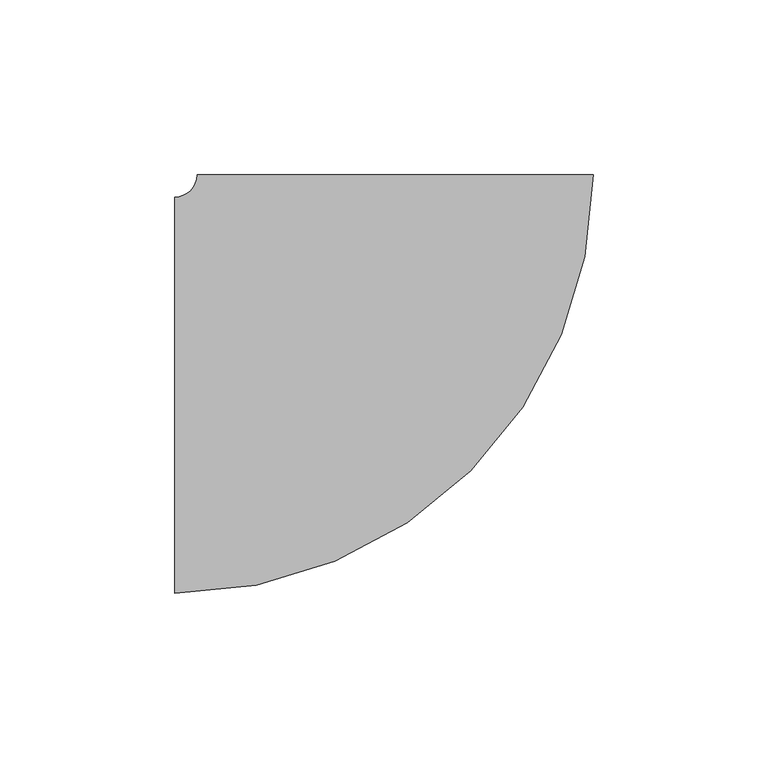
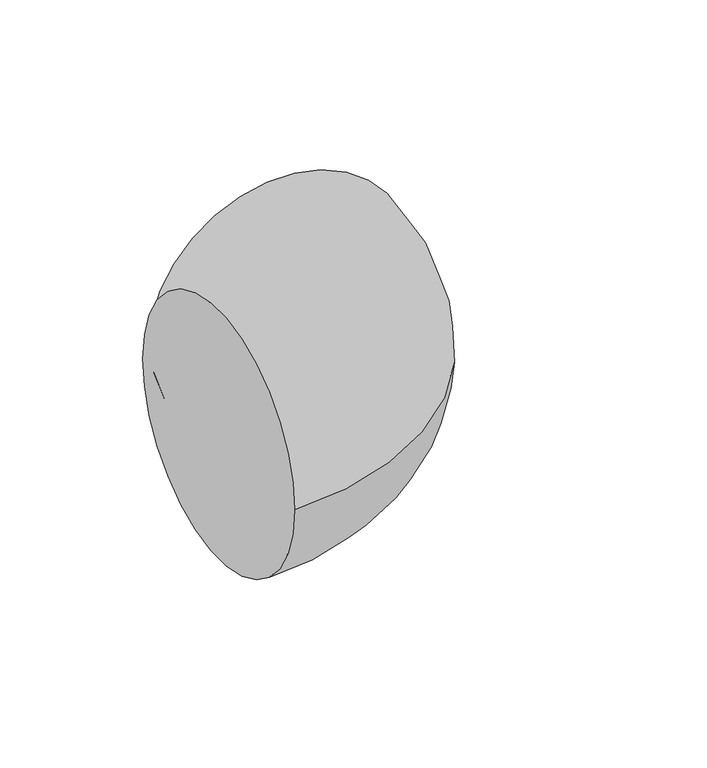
"""IFC4 building model written with IfcOpenShell, lengths in millimetres: pipe fitting geometry, M_Codo - Genérico : Estándar."""

from ifc_helpers import new_model, si_unit, point, frame, origin, place, context, project, spatial, circle_curve, ellipse_curve, trimmed, source, transform, mapped, element, save
from ifc_brep_helpers import plane_surface, revolved_surface, advanced_brep


def pipe_fitting_18296cc9(model_context):
    return source(origin(), model_context, "Body", "AdvancedBrep", [
        advanced_brep(
        [(-62.9350608, -56.5875, 0.0), (-62.9350608, 56.5875, 0.0), (56.5899391, 62.9328676, 0.0), (-56.5850608, 62.9372539, 0.0)],
        [
            (0, 1, circle_curve(frame((-62.9350608, 0.0, 0.0), z_axis=(-1.0, 0.0, 0.0), x_axis=(0.0, 1.0, 0.0)), 56.5875)),
            (1, 0, circle_curve(frame((-62.9350608, 0.0, 0.0), z_axis=(-1.0, 0.0, 0.0), x_axis=(0.0, 1.0, 0.0)), 56.5875)),
            (2, 3, circle_curve(frame((0.0024392, 62.9350607, 0.0), z_axis=(3.875698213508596e-05, 0.9999999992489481, 0.0), x_axis=(-0.9999999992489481, 3.875698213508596e-05, 0.0)), 56.5875)),
            (3, 2, circle_curve(frame((0.0024392, 62.9350607, 0.0), z_axis=(3.875698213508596e-05, 0.9999999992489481, 0.0), x_axis=(-0.9999999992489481, 3.875698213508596e-05, 0.0)), 56.5875)),
            (3, 1, circle_curve(frame((-62.9350608, 62.9375, 0.0), z_axis=(0.0, 0.0, -1.0), x_axis=(0.0, -1.0, 0.0)), 6.35)),
            (0, 2, circle_curve(frame((-62.9350608, 62.9375, 0.0), z_axis=(0.0, 0.0, 1.0), x_axis=(0.0, -1.0, 0.0)), 119.525)),
        ],
        [
            plane_surface(frame((-62.9350608, 0.0, 0.0), z_axis=(-1.0, 0.0, 0.0), x_axis=(0.0, 0.0, 1.0))),
            plane_surface(frame((0.0024392, 62.9350607, 0.0), z_axis=(3.8756982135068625e-05, 0.9999999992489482, 0.0), x_axis=(0.0, 0.0, 1.0))),
            revolved_surface(trimmed(ellipse_curve(frame((-62.9350608, 0.0, 0.0), z_axis=(-1.0, 0.0, 0.0), x_axis=(0.0, 1.0, 0.0)), 56.5875, 56.5875), [point((-62.9350608, -56.5875, 0.0))], [point((-62.9350608, 56.5875, 0.0))], True, "CARTESIAN"), (-62.9350608, 62.9375, 0.0), (0.0, 0.0, 1.0)),
            revolved_surface(trimmed(ellipse_curve(frame((-62.9350608, 0.0, 0.0), z_axis=(-1.0, 0.0, 0.0), x_axis=(0.0, 1.0, 0.0)), 56.5875, 56.5875), [point((-62.9350608, 56.5875, 0.0))], [point((-62.9350608, -56.5875, 0.0))], True, "CARTESIAN"), (-62.9350608, 62.9375, 0.0), (0.0, 0.0, 1.0)),
        ],
        [
            (0, [[1, 2]]),
            (1, [[3, 4]]),
            (2, [[5, -1, 6, -4]]),
            (3, [[-6, -2, -5, -3]]),
        ],
    ),
    ])


if __name__ == "__main__":
    model = new_model("IFC4")
    model_context = context("Model", 3, world=origin())
    ifc_project = project(units=[si_unit("LENGTHUNIT", "METRE", prefix="MILLI")], contexts=[model_context])
    site = spatial("IfcSite", under=ifc_project)
    building = spatial("IfcBuilding", under=site)
    placement = place(None, origin())
    pipe_fitting_shape = pipe_fitting_18296cc9(model_context)
    element("IfcPipeFitting", 1, ObjectType="M_Codo - Genérico : Estándar", at=placement, inside=building, context=model_context, shape_type="MappedRepresentation", body=[
        mapped(pipe_fitting_shape, transform((0.0, 0.0, 0.0), x_axis=(1.0, 0.0, 0.0), y_axis=(0.0, 1.0, 0.0), z_axis=(0.0, 0.0, 1.0))),
    ])
    save(model, "model.ifc")
